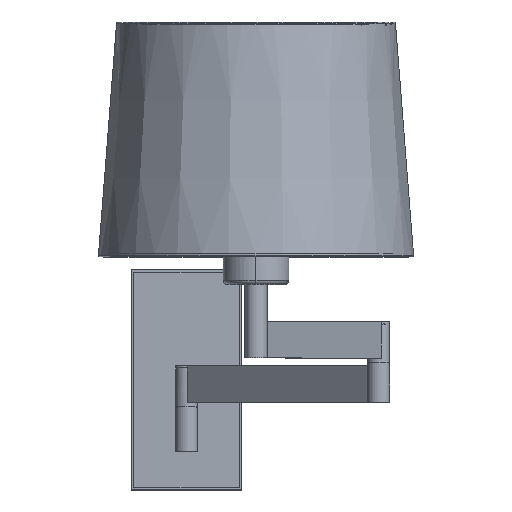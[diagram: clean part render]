
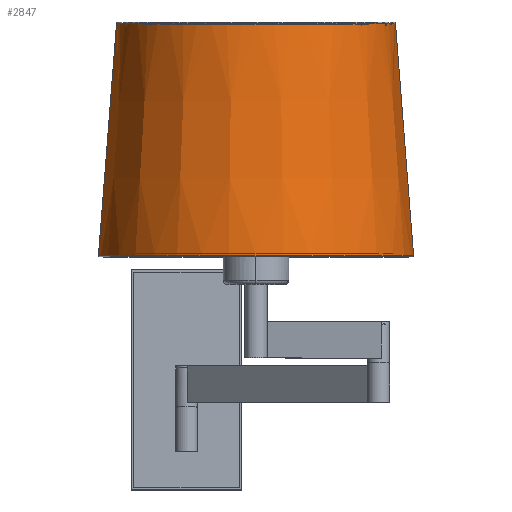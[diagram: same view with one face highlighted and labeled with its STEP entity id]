
A CAD part, top view. The second image highlights one B-rep face of the part: STEP entity #2847.
In plain terms, the highlighted conical face has half-angle 4.466 degrees and reference radius 106.184 mm.
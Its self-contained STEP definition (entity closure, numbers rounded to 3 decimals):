
#33=CONICAL_SURFACE('',#3167,106.184,0.078);
#93=B_SPLINE_CURVE_WITH_KNOTS('',3,(#5812,#5813,#5814,#5815,#5816,#5817,
#5818,#5819,#5820,#5821,#5822,#5823),.UNSPECIFIED.,.F.,.F.,(4,1,1,1,1,1,
1,1,1,4),(0.,0.111,0.222,0.333,0.444,
0.556,0.667,0.778,0.889,
1.),.UNSPECIFIED.);
#409=FACE_OUTER_BOUND('',#609,.T.);
#609=EDGE_LOOP('',(#2482,#2483,#2484,#2485));
#757=CIRCLE('',#3163,107.419);
#958=LINE('',#5825,#1160);
#959=LINE('',#5826,#1161);
#1160=VECTOR('',#3928,304.8);
#1161=VECTOR('',#3929,304.8);
#1390=VERTEX_POINT('',#5001);
#1391=VERTEX_POINT('',#5204);
#1392=VERTEX_POINT('',#5411);
#1393=VERTEX_POINT('',#5605);
#1753=EDGE_CURVE('',#1391,#1390,#757,.T.);
#1757=EDGE_CURVE('',#1392,#1393,#93,.T.);
#1758=EDGE_CURVE('',#1390,#1392,#958,.T.);
#1759=EDGE_CURVE('',#1393,#1391,#959,.T.);
#2482=ORIENTED_EDGE('',*,*,#1759,.T.);
#2483=ORIENTED_EDGE('',*,*,#1753,.T.);
#2484=ORIENTED_EDGE('',*,*,#1758,.T.);
#2485=ORIENTED_EDGE('',*,*,#1757,.T.);
#2847=ADVANCED_FACE('',(#409),#33,.T.);
#3163=AXIS2_PLACEMENT_3D('',#5409,#3920,#3921);
#3167=AXIS2_PLACEMENT_3D('',#5827,#3930,#3931);
#3920=DIRECTION('center_axis',(0.,0.,
1.));
#3921=DIRECTION('ref_axis',(-0.588,-0.809,0.));
#3928=DIRECTION('',(0.,0.078,0.997));
#3929=DIRECTION('',(0.,0.078,-0.997));
#3930=DIRECTION('center_axis',(0.,0.,
-1.));
#3931=DIRECTION('ref_axis',(-0.588,-0.809,0.));
#5001=CARTESIAN_POINT('',(0.,-107.419,1.5));
#5204=CARTESIAN_POINT('',(0.,107.419,1.5));
#5409=CARTESIAN_POINT('Origin',(0.,0.,
1.5));
#5411=CARTESIAN_POINT('',(0.,-95.072,159.583));
#5605=CARTESIAN_POINT('',(0.,95.072,159.583));
#5812=CARTESIAN_POINT('Ctrl Pts',(0.,-95.072,
159.583));
#5813=CARTESIAN_POINT('Ctrl Pts',(-11.09,-95.151,159.583));
#5814=CARTESIAN_POINT('Ctrl Pts',(-33.17,-91.134,159.583));
#5815=CARTESIAN_POINT('Ctrl Pts',(-62.368,-74.333,159.583));
#5816=CARTESIAN_POINT('Ctrl Pts',(-84.023,-48.508,159.583));
#5817=CARTESIAN_POINT('Ctrl Pts',(-95.548,-16.849,159.583));
#5818=CARTESIAN_POINT('Ctrl Pts',(-95.548,16.849,159.583));
#5819=CARTESIAN_POINT('Ctrl Pts',(-84.023,48.508,159.583));
#5820=CARTESIAN_POINT('Ctrl Pts',(-62.368,74.333,159.583));
#5821=CARTESIAN_POINT('Ctrl Pts',(-33.17,91.134,159.583));
#5822=CARTESIAN_POINT('Ctrl Pts',(-11.09,95.151,159.583));
#5823=CARTESIAN_POINT('Ctrl Pts',(0.,95.072,
159.583));
#5825=CARTESIAN_POINT('',(0.,-107.419,1.5));
#5826=CARTESIAN_POINT('',(0.,95.072,159.583));
#5827=CARTESIAN_POINT('Origin',(0.,0.,
17.309));
